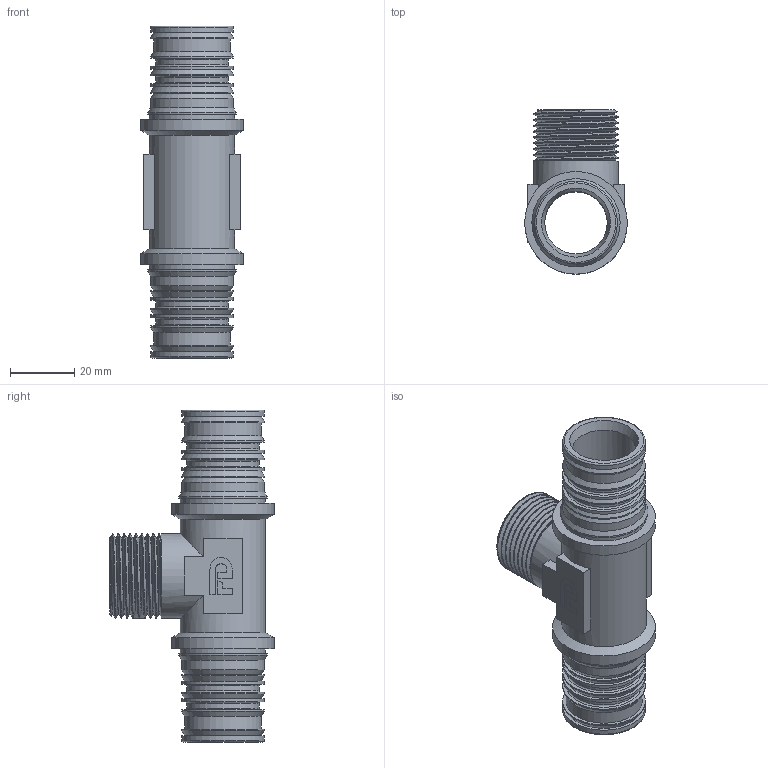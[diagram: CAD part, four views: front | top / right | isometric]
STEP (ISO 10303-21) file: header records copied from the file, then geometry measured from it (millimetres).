
FILE_DESCRIPTION(/* description */ (''),/* implementation_level */ '2;1');
FILE_NAME(/* name */ 'C:\Users\Doom\Desktop\Фадотех\Пресс\HDT26-1 31.03.2020\HDT26-1 31.03.2020.stp',/* time_stamp */ '2022-08-12T19:09:17+03:00',/* author */ ('Doom'),/* organization */ (''),/* preprocessor_version */ 'ST-DEVELOPER v18',/* originating_system */ 'Autodesk Inventor 2020',/* authorisation */ '');
FILE_SCHEMA (('AUTOMOTIVE_DESIGN { 1 0 10303 214 3 1 1 }'));
Length unit declared in the file: millimetre
Products named in the file (1): HDT26-1 31.03.2020
Bounding box: 32 x 51.3 x 103.5 mm (x, y, z)
Volume: 31338.5 mm3; surface area: 25261.5 mm2
Topology: 2 solids, 2 shells, 164 faces, 457 edges, 324 vertices
Faces by surface type: plane 77, cylinder 45, cone 18, bspline 14, torus 10
Full cylindrical faces by diameter (mm): 19.5 x2, 22.6 x4, 23.71 x2, 23.8 x2, 25.8 x16, 26.4 x10, 26.5 x3, 27.5 x2, 32 x2
Entity records: 10406 total; most frequent: CARTESIAN_POINT 6021, ORIENTED_EDGE 914, DIRECTION 910, EDGE_CURVE 457, AXIS2_PLACEMENT_3D 357, VERTEX_POINT 324, CIRCLE 203, EDGE_LOOP 197
